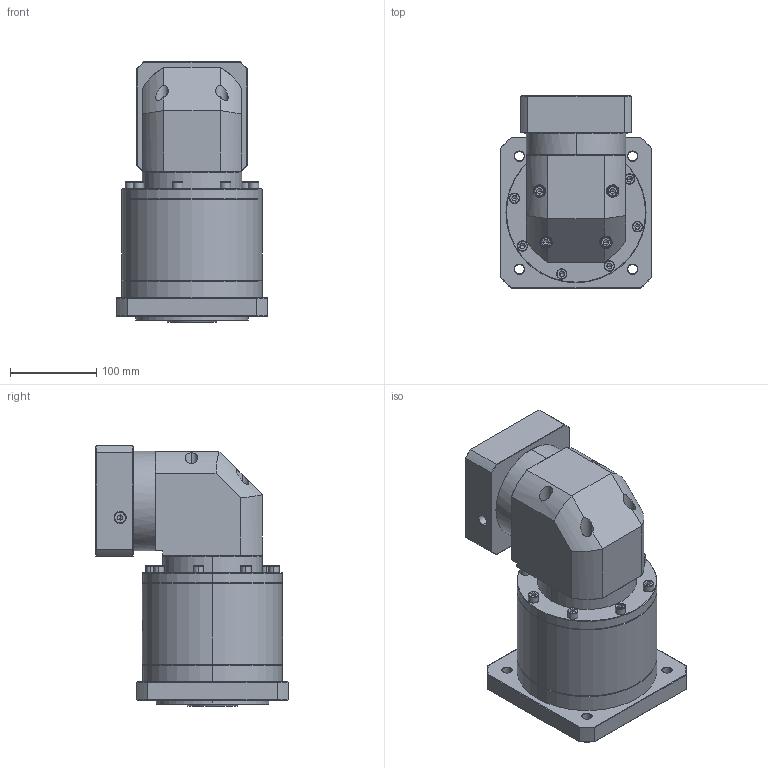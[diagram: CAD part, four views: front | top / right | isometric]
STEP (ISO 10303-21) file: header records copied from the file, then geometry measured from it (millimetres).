
FILE_DESCRIPTION (( 'STEP AP214' ), '1' );
FILE_NAME ('ZFR160A-K35-L3-P2-22-110-145-M8.step', '2023-09-03T09:45:43', ( '' ), ( '' ), 'SwSTEP 2.0', 'SolidWorks 2016', '' );
FILE_SCHEMA (( 'AUTOMOTIVE_DESIGN' ));
Length unit declared in the file: millimetre
Products named in the file (1): ZFR160A-K35-L3-P2-22-110-145-M8
Bounding box: 175 x 222.4 x 301.2 mm (x, y, z)
Volume: 5567475.8 mm3; surface area: 360836.8 mm2
Topology: 6 solids, 6 shells, 2414 faces, 6318 edges, 4030 vertices
Faces by surface type: plane 1139, cylinder 462, bspline 404, cone 365, torus 44
Entity records: 126439 total; most frequent: CARTESIAN_POINT 45633, ORIENTED_EDGE 12532, DIRECTION 9553, EDGE_CURVE 6266, VERTEX_POINT 4030, VECTOR 3383, LINE 3383, AXIS2_PLACEMENT_3D 3085
